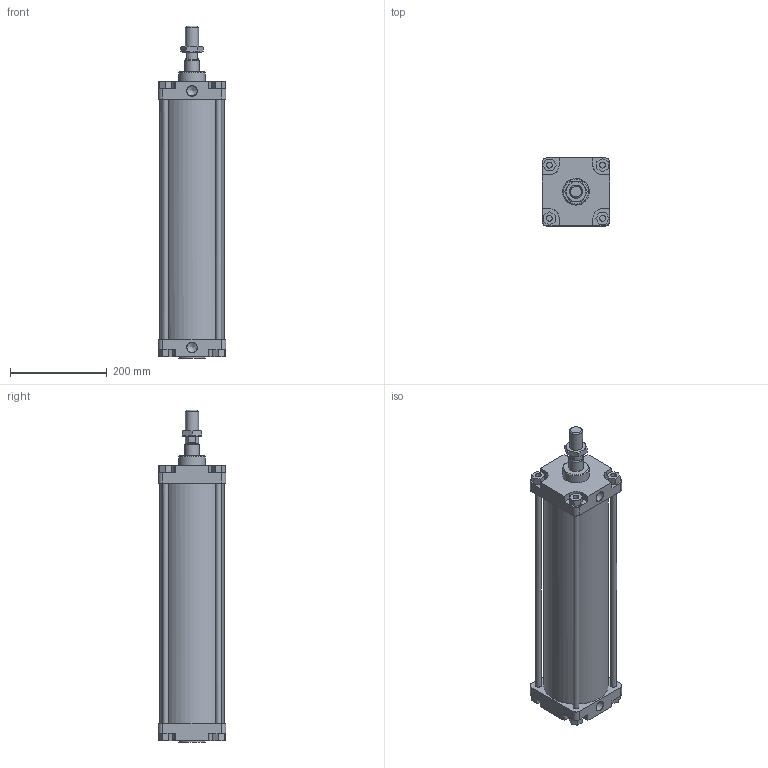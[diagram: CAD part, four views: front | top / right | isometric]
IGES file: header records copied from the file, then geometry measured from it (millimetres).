
Global section: file name: 1305_125_0400_01A; native system: Autodesk Inventor 2014; preprocessor: unknown; author: A. Manieri; date: 20161124.143321; units: millimetre
Bounding box: 140 x 140 x 686 mm (x, y, z)
Volume: 3901382.3 mm3; surface area: 744645.6 mm2
Topology: 9 solids, 9 shells, 175 faces, 440 edges, 295 vertices
Faces by surface type: bspline 175
